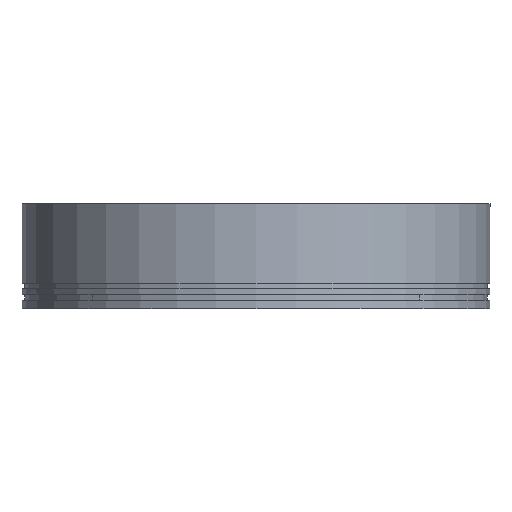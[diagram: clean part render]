
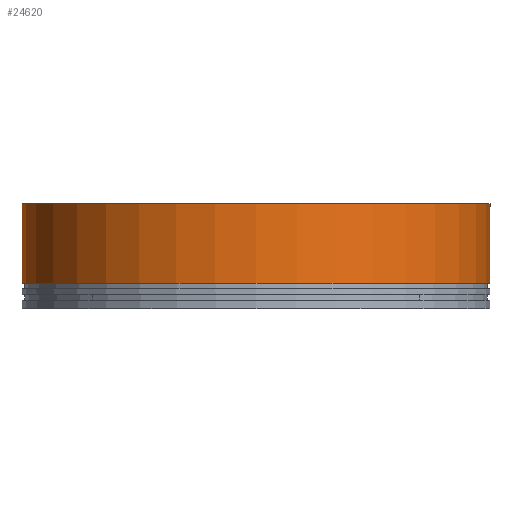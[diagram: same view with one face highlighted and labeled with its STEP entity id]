
A CAD part, left-side view. The second image highlights one B-rep face of the part: STEP entity #24620.
In plain terms, the highlighted cylindrical face has radius 82.5 mm (diameter 165 mm), a full revolution.
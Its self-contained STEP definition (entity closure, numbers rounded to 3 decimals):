
#24588=CARTESIAN_POINT('',(0.,0.,9.));
#24589=DIRECTION('',(1.,0.,0.));
#24590=DIRECTION('',(0.,0.,1.));
#24591=AXIS2_PLACEMENT_3D('',#24588,#24590,#24589);
#24592=CYLINDRICAL_SURFACE('',#24591,82.5);
#24593=CARTESIAN_POINT('',(82.5,0.,37.));
#24594=VERTEX_POINT('',#24593);
#24595=CARTESIAN_POINT('',(0.,0.,37.));
#24596=DIRECTION('',(1.,0.,0.));
#24597=DIRECTION('',(0.,0.,-1.));
#24598=AXIS2_PLACEMENT_3D('',#24595,#24597,#24596);
#24599=CIRCLE('',#24598,82.5);
#24600=EDGE_CURVE('',#24594,#24594,#24599,.T.);
#24601=ORIENTED_EDGE('',*,*,#24600,.T.);
#24602=CARTESIAN_POINT('',(82.5,0.,9.));
#24603=VERTEX_POINT('',#24602);
#24604=CARTESIAN_POINT('',(82.5,0.,9.));
#24605=DIRECTION('',(0.,0.,1.));
#24606=VECTOR('',#24605,28.);
#24607=LINE('',#24604,#24606);
#24608=EDGE_CURVE('',#24603,#24594,#24607,.T.);
#24609=ORIENTED_EDGE('',*,*,#24608,.F.);
#24610=CARTESIAN_POINT('',(0.,0.,9.));
#24611=DIRECTION('',(1.,0.,0.));
#24612=DIRECTION('',(0.,0.,-1.));
#24613=AXIS2_PLACEMENT_3D('',#24610,#24612,#24611);
#24614=CIRCLE('',#24613,82.5);
#24615=EDGE_CURVE('',#24603,#24603,#24614,.T.);
#24616=ORIENTED_EDGE('',*,*,#24615,.F.);
#24617=ORIENTED_EDGE('',*,*,#24608,.T.);
#24618=EDGE_LOOP('',(#24601,#24609,#24616,#24617));
#24619=FACE_OUTER_BOUND('',#24618,.T.);
#24620=ADVANCED_FACE('',(#24619),#24592,.T.);
